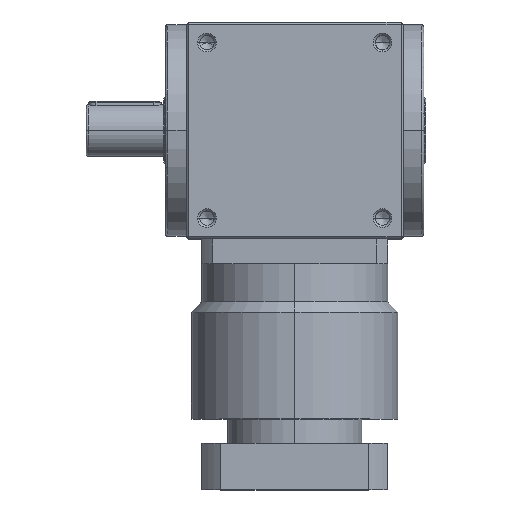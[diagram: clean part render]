
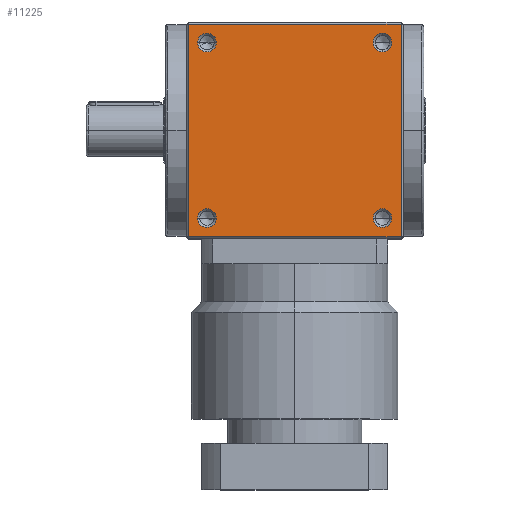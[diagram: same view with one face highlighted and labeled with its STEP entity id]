
A CAD part, top view. The second image highlights one B-rep face of the part: STEP entity #11225.
In plain terms, the highlighted planar face has unit normal (0, 0, 1).
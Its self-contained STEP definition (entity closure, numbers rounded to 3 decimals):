
#74 = LINE ( 'NONE', #509, #768 ) ;
#166 = CIRCLE ( 'NONE', #1578, 9. ) ;
#509 = CARTESIAN_POINT ( 'NONE',  ( -103., 0., 105. ) ) ;
#555 = DIRECTION ( 'NONE',  ( 0., 1., 0. ) ) ;
#594 = FACE_BOUND ( 'NONE', #11532, .T. ) ;
#674 = VERTEX_POINT ( 'NONE', #8799 ) ;
#731 = DIRECTION ( 'NONE',  ( 0., -1., 0. ) ) ;
#739 = CARTESIAN_POINT ( 'NONE',  ( 103., 0., 105. ) ) ;
#768 = VECTOR ( 'NONE', #555, 1000. ) ;
#1012 = LINE ( 'NONE', #739, #12694 ) ;
#1125 = EDGE_CURVE ( 'NONE', #9187, #6980, #8806, .T. ) ;
#1128 = EDGE_CURVE ( 'NONE', #674, #1459, #7938, .T. ) ;
#1146 = EDGE_CURVE ( 'NONE', #6373, #4678, #7601, .T. ) ;
#1150 = EDGE_CURVE ( 'NONE', #9470, #2252, #6910, .T. ) ;
#1175 = EDGE_CURVE ( 'NONE', #9510, #10615, #10220, .T. ) ;
#1197 = EDGE_CURVE ( 'NONE', #6638, #9510, #1012, .T. ) ;
#1213 = VECTOR ( 'NONE', #1873, 1000. ) ;
#1215 = DIRECTION ( 'NONE',  ( -1., 0., 0. ) ) ;
#1223 = EDGE_CURVE ( 'NONE', #10615, #7584, #74, .T. ) ;
#1235 = CARTESIAN_POINT ( 'NONE',  ( 0., -103., 105. ) ) ;
#1449 = DIRECTION ( 'NONE',  ( 1., 0., 0. ) ) ;
#1459 = VERTEX_POINT ( 'NONE', #2413 ) ;
#1461 = DIRECTION ( 'NONE',  ( 0., 0., 1. ) ) ;
#1463 = CARTESIAN_POINT ( 'NONE',  ( -85., 85., 105. ) ) ;
#1509 = DIRECTION ( 'NONE',  ( 0., -1., 0. ) ) ;
#1521 = EDGE_CURVE ( 'NONE', #6638, #7584, #12693, .T. ) ;
#1534 = DIRECTION ( 'NONE',  ( 0., 0., 1. ) ) ;
#1559 = CARTESIAN_POINT ( 'NONE',  ( 85., 85., 105. ) ) ;
#1578 = AXIS2_PLACEMENT_3D ( 'NONE', #4093, #4069, #4065 ) ;
#1657 = DIRECTION ( 'NONE',  ( 1., 0., 0. ) ) ;
#1667 = DIRECTION ( 'NONE',  ( 0., 0., 1. ) ) ;
#1671 = CARTESIAN_POINT ( 'NONE',  ( -85., -85., 105. ) ) ;
#1739 = DIRECTION ( 'NONE',  ( 1., 0., 0. ) ) ;
#1746 = DIRECTION ( 'NONE',  ( 0., 0., 1. ) ) ;
#1753 = CARTESIAN_POINT ( 'NONE',  ( 0., 103., 105. ) ) ;
#1807 = AXIS2_PLACEMENT_3D ( 'NONE', #5357, #5354, #5338 ) ;
#1814 = CARTESIAN_POINT ( 'NONE',  ( 85., -85., 105. ) ) ;
#1873 = DIRECTION ( 'NONE',  ( -1., 0., 0. ) ) ;
#1948 = AXIS2_PLACEMENT_3D ( 'NONE', #6000, #5979, #5977 ) ;
#2252 = VERTEX_POINT ( 'NONE', #3167 ) ;
#2413 = CARTESIAN_POINT ( 'NONE',  ( -94., -85., 105. ) ) ;
#2648 = FACE_BOUND ( 'NONE', #11079, .T. ) ;
#3164 = CIRCLE ( 'NONE', #3942, 9. ) ;
#3167 = CARTESIAN_POINT ( 'NONE',  ( -94., 85., 105. ) ) ;
#3942 = AXIS2_PLACEMENT_3D ( 'NONE', #5179, #5238, #5289 ) ;
#4065 = DIRECTION ( 'NONE',  ( 1., 0., 0. ) ) ;
#4069 = DIRECTION ( 'NONE',  ( 0., 0., 1. ) ) ;
#4093 = CARTESIAN_POINT ( 'NONE',  ( -85., 85., 105. ) ) ;
#4250 = FACE_BOUND ( 'NONE', #11596, .T. ) ;
#4272 = CARTESIAN_POINT ( 'NONE',  ( -103., 103., 105. ) ) ;
#4356 = CARTESIAN_POINT ( 'NONE',  ( 94., -85., 105. ) ) ;
#4632 = EDGE_CURVE ( 'NONE', #1459, #674, #10950, .T. ) ;
#4678 = VERTEX_POINT ( 'NONE', #5377 ) ;
#5179 = CARTESIAN_POINT ( 'NONE',  ( 85., -85., 105. ) ) ;
#5238 = DIRECTION ( 'NONE',  ( 0., 0., 1. ) ) ;
#5289 = DIRECTION ( 'NONE',  ( 1., 0., 0. ) ) ;
#5338 = DIRECTION ( 'NONE',  ( -1., 0., 0. ) ) ;
#5354 = DIRECTION ( 'NONE',  ( 0., 0., -1. ) ) ;
#5357 = CARTESIAN_POINT ( 'NONE',  ( 0., 0., 105. ) ) ;
#5377 = CARTESIAN_POINT ( 'NONE',  ( 85., 94., 105. ) ) ;
#5463 = PLANE ( 'NONE',  #1807 ) ;
#5486 = DIRECTION ( 'NONE',  ( 1., 0., 0. ) ) ;
#5488 = DIRECTION ( 'NONE',  ( 0., 0., 1. ) ) ;
#5496 = CARTESIAN_POINT ( 'NONE',  ( -85., -85., 105. ) ) ;
#5977 = DIRECTION ( 'NONE',  ( 0., -1., 0. ) ) ;
#5979 = DIRECTION ( 'NONE',  ( 0., 0., 1. ) ) ;
#6000 = CARTESIAN_POINT ( 'NONE',  ( 85., 85., 105. ) ) ;
#6373 = VERTEX_POINT ( 'NONE', #11097 ) ;
#6638 = VERTEX_POINT ( 'NONE', #9554 ) ;
#6910 = CIRCLE ( 'NONE', #10273, 9. ) ;
#6980 = VERTEX_POINT ( 'NONE', #7670 ) ;
#7145 = ORIENTED_EDGE ( 'NONE', *, *, #8590, .F. ) ;
#7195 = AXIS2_PLACEMENT_3D ( 'NONE', #5496, #5488, #5486 ) ;
#7281 = ORIENTED_EDGE ( 'NONE', *, *, #1125, .F. ) ;
#7370 = ORIENTED_EDGE ( 'NONE', *, *, #4632, .F. ) ;
#7523 = ORIENTED_EDGE ( 'NONE', *, *, #1128, .F. ) ;
#7557 = ORIENTED_EDGE ( 'NONE', *, *, #11041, .F. ) ;
#7584 = VERTEX_POINT ( 'NONE', #4272 ) ;
#7601 = CIRCLE ( 'NONE', #10254, 9. ) ;
#7624 = CARTESIAN_POINT ( 'NONE',  ( 103., -103., 105. ) ) ;
#7670 = CARTESIAN_POINT ( 'NONE',  ( 76., -85., 105. ) ) ;
#7697 = ORIENTED_EDGE ( 'NONE', *, *, #1146, .F. ) ;
#7803 = ORIENTED_EDGE ( 'NONE', *, *, #11631, .F. ) ;
#7859 = ORIENTED_EDGE ( 'NONE', *, *, #1150, .F. ) ;
#7891 = CARTESIAN_POINT ( 'NONE',  ( -76., 85., 105. ) ) ;
#7928 = ORIENTED_EDGE ( 'NONE', *, *, #1197, .F. ) ;
#7938 = CIRCLE ( 'NONE', #10237, 9. ) ;
#8055 = CARTESIAN_POINT ( 'NONE',  ( -103., -103., 105. ) ) ;
#8064 = CIRCLE ( 'NONE', #1948, 9. ) ;
#8302 = ORIENTED_EDGE ( 'NONE', *, *, #1175, .F. ) ;
#8391 = ORIENTED_EDGE ( 'NONE', *, *, #1223, .F. ) ;
#8547 = ORIENTED_EDGE ( 'NONE', *, *, #1521, .T. ) ;
#8590 = EDGE_CURVE ( 'NONE', #6980, #9187, #3164, .T. ) ;
#8799 = CARTESIAN_POINT ( 'NONE',  ( -76., -85., 105. ) ) ;
#8806 = CIRCLE ( 'NONE', #10253, 9. ) ;
#9187 = VERTEX_POINT ( 'NONE', #4356 ) ;
#9470 = VERTEX_POINT ( 'NONE', #7891 ) ;
#9510 = VERTEX_POINT ( 'NONE', #7624 ) ;
#9554 = CARTESIAN_POINT ( 'NONE',  ( 103., 103., 105. ) ) ;
#10042 = VECTOR ( 'NONE', #1215, 1000. ) ;
#10220 = LINE ( 'NONE', #1235, #10042 ) ;
#10237 = AXIS2_PLACEMENT_3D ( 'NONE', #1671, #1667, #1657 ) ;
#10253 = AXIS2_PLACEMENT_3D ( 'NONE', #1814, #1746, #1739 ) ;
#10254 = AXIS2_PLACEMENT_3D ( 'NONE', #1559, #1534, #1509 ) ;
#10273 = AXIS2_PLACEMENT_3D ( 'NONE', #1463, #1461, #1449 ) ;
#10615 = VERTEX_POINT ( 'NONE', #8055 ) ;
#10950 = CIRCLE ( 'NONE', #7195, 9. ) ;
#11041 = EDGE_CURVE ( 'NONE', #4678, #6373, #8064, .T. ) ;
#11079 = EDGE_LOOP ( 'NONE', ( #7859, #7803 ) ) ;
#11097 = CARTESIAN_POINT ( 'NONE',  ( 85., 76., 105. ) ) ;
#11225 = ADVANCED_FACE ( 'NONE', ( #12640, #2648, #4250, #594, #11949 ), #5463, .F. ) ;
#11296 = EDGE_LOOP ( 'NONE', ( #8547, #8391, #8302, #7928 ) ) ;
#11532 = EDGE_LOOP ( 'NONE', ( #7523, #7370 ) ) ;
#11596 = EDGE_LOOP ( 'NONE', ( #7697, #7557 ) ) ;
#11603 = EDGE_LOOP ( 'NONE', ( #7281, #7145 ) ) ;
#11631 = EDGE_CURVE ( 'NONE', #2252, #9470, #166, .T. ) ;
#11949 = FACE_BOUND ( 'NONE', #11603, .T. ) ;
#12640 = FACE_OUTER_BOUND ( 'NONE', #11296, .T. ) ;
#12693 = LINE ( 'NONE', #1753, #1213 ) ;
#12694 = VECTOR ( 'NONE', #731, 1000. ) ;
